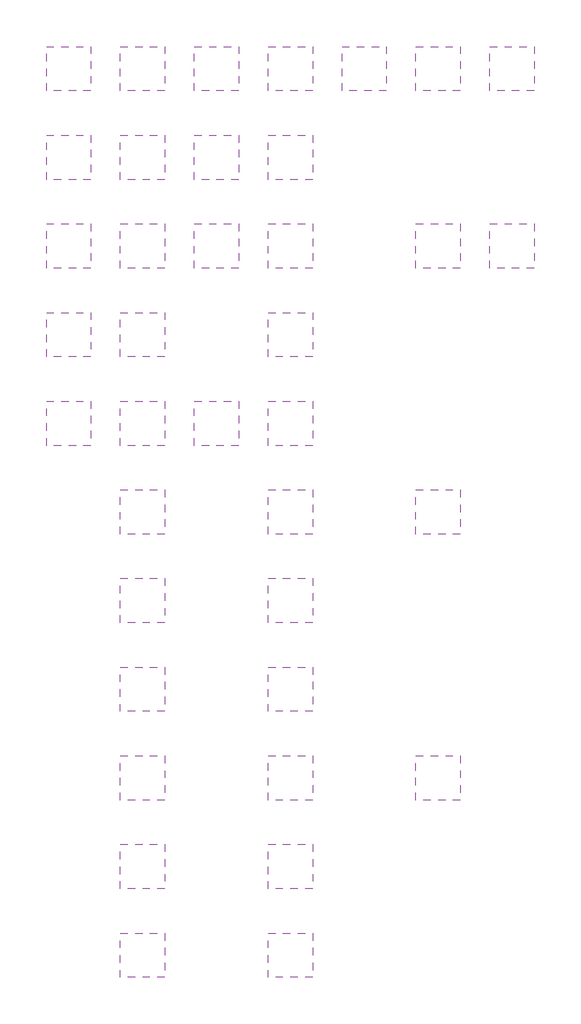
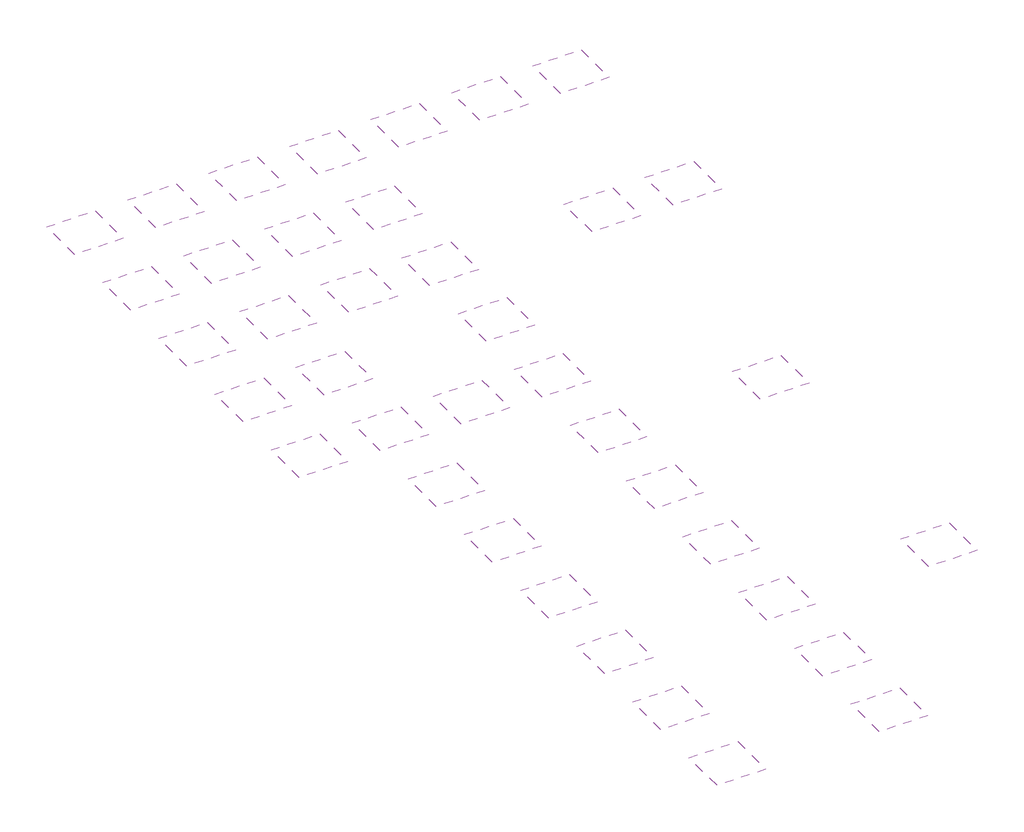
# One storey: 38 coverings.
"""IFC4 building model written with IfcOpenShell, lengths in millimetres."""

import ifcopenshell
import ifcopenshell.guid

model = None  # the IFC model being written
_history = None  # IfcOwnerHistory: only IFC2X3 demands one
_inside = {}  # id of a spatial element -> (the spatial element, [elements in it])
_under = {}  # id of a project, library or spatial element -> (it, [spatial elements below it])
_declared = {}  # id of a project -> (the project, [libraries it declares])
_typed = {}  # id of a type object -> (the type object, [elements of that type])
_made_of = {}  # id of a material, layer set ... -> (it, [elements and type objects made of it])


def new_model(schema):
    """Start an empty IFC model of exactly this schema.

    Asked for "IFC4X3", IfcOpenShell would pick the latest addendum, in which some entities
    have other attributes; the version numbers below select the first issue.
    IFC2X3 requires an IfcOwnerHistory on every rooted entity: one is made here for all.
    """
    global model, _history
    if schema == "IFC4X3":
        model = ifcopenshell.file(schema_version=(4, 3, 0, 0))
    else:
        model = ifcopenshell.file(schema=schema)
    _inside.clear()
    _under.clear()
    _declared.clear()
    _typed.clear()
    _made_of.clear()
    _history = None
    if model.schema == "IFC2X3":
        org = make("IfcOrganization", Name="unknown")
        user = make(
            "IfcPersonAndOrganization",
            ThePerson=make("IfcPerson", FamilyName="unknown"),
            TheOrganization=org,
        )
        app = make(
            "IfcApplication",
            ApplicationDeveloper=org,
            Version="unknown",
            ApplicationFullName="unknown",
            ApplicationIdentifier="unknown",
        )
        _history = make(
            "IfcOwnerHistory",
            OwningUser=user,
            OwningApplication=app,
            ChangeAction="ADDED",
            CreationDate=0,
        )
    return model


def make(cls, **values):
    """One entity of the class cls with the attributes given. An attribute that is None is left unset."""
    return model.create_entity(
        cls, **{name: value for name, value in values.items() if value is not None}
    )


def rooted(cls, **values):
    """An entity with a GlobalId (a new one), such as an element, a storey or a relation."""
    return make(cls, GlobalId=ifcopenshell.guid.new(), OwnerHistory=_history, **values)


def si_unit(unit_type, name, prefix=None):
    """IfcSIUnit, for example si_unit("LENGTHUNIT", "METRE", prefix="MILLI")."""
    return make("IfcSIUnit", UnitType=unit_type, Prefix=prefix, Name=name)


def assignment(units):
    """IfcUnitAssignment: the units of a project."""
    return None if units is None else make("IfcUnitAssignment", Units=units)


def point(xyz):
    """IfcCartesianPoint."""
    return None if xyz is None else make("IfcCartesianPoint", Coordinates=xyz)


def direction(xyz):
    """IfcDirection."""
    return None if xyz is None else make("IfcDirection", DirectionRatios=xyz)


def frame(location, z_axis=None, x_axis=None):
    """IfcAxis2Placement3D, a coordinate frame: its origin and axes. An axis left out is left unset."""
    return make(
        "IfcAxis2Placement3D",
        Location=point(location),
        Axis=direction(z_axis),
        RefDirection=direction(x_axis),
    )


def origin():
    """The frame at (0, 0, 0) with its axes left unset."""
    return frame((0.0, 0.0, 0.0))


def place(relative_to, where):
    """IfcLocalPlacement: puts the frame where relative to a parent placement (None: the world)."""
    return make(
        "IfcLocalPlacement", PlacementRelTo=relative_to, RelativePlacement=where
    )


def context(
    kind, dimensions, precision=None, world=None, true_north=None, identifier=None
):
    """IfcGeometricRepresentationContext, for example the 3D "Model" context."""
    return make(
        "IfcGeometricRepresentationContext",
        ContextIdentifier=identifier,
        ContextType=kind,
        CoordinateSpaceDimension=dimensions,
        Precision=precision,
        WorldCoordinateSystem=world,
        TrueNorth=true_north,
    )


def project(units=None, contexts=None):
    """IfcProject with its units and contexts."""
    return rooted(
        "IfcProject",
        Name="project",
        RepresentationContexts=contexts,
        UnitsInContext=assignment(units),
    )


def spatial(cls, under=None, at=None, **own):
    """A site, building, storey or space (cls), placed at a placement, below another one or the project."""
    s = rooted(cls, ObjectPlacement=at, **own)
    if under is not None:
        _under.setdefault(under.id(), (under, []))[1].append(s)
    return s


def polyline(points):
    """IfcPolyline through the points."""
    return make("IfcPolyline", Points=[point(p) for p in points])


def outline(outer, holes=None, kind="AREA"):
    """IfcArbitraryClosedProfileDef: a profile drawn as a closed curve; with holes, ...WithVoids."""
    if holes is None:
        return make("IfcArbitraryClosedProfileDef", ProfileType=kind, OuterCurve=outer)
    return make(
        "IfcArbitraryProfileDefWithVoids",
        ProfileType=kind,
        OuterCurve=outer,
        InnerCurves=holes,
    )


def extrude(swept, where, along, depth):
    """IfcExtrudedAreaSolid: the profile swept, set in the frame where, extruded along a direction by depth."""
    return make(
        "IfcExtrudedAreaSolid",
        SweptArea=swept,
        Position=where,
        ExtrudedDirection=direction(along),
        Depth=depth,
    )


def shape(context_of_items, identifier, shape_type, items):
    """IfcShapeRepresentation: the items that make up one representation, for example the "Body"."""
    return make(
        "IfcShapeRepresentation",
        ContextOfItems=context_of_items,
        RepresentationIdentifier=identifier,
        RepresentationType=shape_type,
        Items=items,
    )


def made_of(thing, what):
    """Note that an element or type object is made of a material, layer set ...; save() writes the relation."""
    if what is not None:
        _made_of.setdefault(what.id(), (what, []))[1].append(thing)
    return thing


def element(
    cls,
    number,
    at=None,
    inside=None,
    cuts=None,
    type_object=None,
    material=None,
    context=None,
    identifier="Body",
    shape_type=None,
    held_by="IfcProductDefinitionShape",
    body=None,
    shapes=None,
    **own,
):
    """One element of the class cls, such as IfcWall. Its Tag is "e" and its number.

    at: its placement. inside: the storey or other place that contains it. cuts: it is an
    opening in that element (IfcRelVoidsElement). A single representation is given by context,
    identifier, shape_type and body (its items); several are given by shapes. held_by: the class
    of the entity that holds the representations. save() writes the other relations.
    """
    e = rooted(cls, Tag="e%d" % number, ObjectPlacement=at, **own)
    if body is not None:
        shapes = [shape(context, identifier, shape_type, body)]
    if shapes is not None:
        e.Representation = make(held_by, Representations=shapes)
    if inside is not None:
        _inside.setdefault(inside.id(), (inside, []))[1].append(e)
    if cuts is not None:
        rooted(
            "IfcRelVoidsElement", RelatingBuildingElement=cuts, RelatedOpeningElement=e
        )
    if type_object is not None:
        _typed.setdefault(type_object.id(), (type_object, []))[1].append(e)
    return made_of(e, material)


def aggregate(whole, parts):
    """IfcRelAggregates: a whole, such as a stair, and the parts it consists of."""
    return rooted("IfcRelAggregates", RelatingObject=whole, RelatedObjects=parts)


def save(model, path):
    """Write the relations noted so far, then the file.

    IfcRelAggregates (storeys below a building ...), IfcRelContainedInSpatialStructure (elements
    in a storey), IfcRelDefinesByType, IfcRelAssociatesMaterial and IfcRelDeclares: one each for
    every whole, place, type object, material and project.
    """
    for whole, parts in _under.values():
        aggregate(whole, parts)
    for where, things in _inside.values():
        rooted(
            "IfcRelContainedInSpatialStructure",
            RelatedElements=things,
            RelatingStructure=where,
        )
    for kind, things in _typed.values():
        rooted("IfcRelDefinesByType", RelatedObjects=things, RelatingType=kind)
    for what, things in _made_of.values():
        rooted("IfcRelAssociatesMaterial", RelatedObjects=things, RelatingMaterial=what)
    for by, libraries in _declared.values():
        rooted("IfcRelDeclares", RelatingContext=by, RelatedDefinitions=libraries)
    model.write(path)


model = new_model("IFC4")

# Units and contexts
model_context = context("Model", 3, world=origin())
ifc_project = project(units=[si_unit("LENGTHUNIT", "METRE", prefix="MILLI")], contexts=[model_context])

# Site, building, storey
site = spatial("IfcSite", under=ifc_project)
building = spatial("IfcBuilding", under=site)
storey = spatial("IfcBuildingStorey", under=building, Name="Rockfon MediCare Standard", Elevation=0.0)

# Coverings
placement = place(None, origin())
element("IfcCovering", 1, ObjectType="Rockfon MediCare Standard 600x600x12_Rockfon System T15 A_A15", at=placement, inside=storey, context=model_context, shape_type="SweptSolid", body=[
    extrude(outline(polyline([(-4783.0103193, 14117.0281757), (-4783.0103193, 11117.0281757), (-7783.0103193, 11117.0281757), (-7783.0103193, 14117.0281757), (-4783.0103193, 14117.0281757)])), frame((0.0, 0.0, 2600.0), z_axis=(0.0, 0.0, 1.0), x_axis=(1.0, 0.0, 0.0)), (0.0, 0.0, 1.0), 200.0),
])
element("IfcCovering", 2, ObjectType="Rockfon MediCare Standard 600x600x12_Rockfon System T24 A_A24", at=placement, inside=storey, context=model_context, shape_type="SweptSolid", body=[
    extrude(outline(polyline([(-4783.0103193, 2117.0279837), (-4783.0103193, -882.9720163), (-7783.0103193, -882.9720163), (-7783.0103193, 2117.0279837), (-4783.0103193, 2117.0279837)])), frame((0.0, 0.0, 2600.0), z_axis=(0.0, 0.0, 1.0), x_axis=(1.0, 0.0, 0.0)), (0.0, 0.0, 1.0), 200.0),
])
element("IfcCovering", 3, ObjectType="Rockfon MediCare Standard 600x600x12_Rockfon System XL T24 A_A24", at=placement, inside=storey, context=model_context, shape_type="SweptSolid", body=[
    extrude(outline(polyline([(-4783.0103193, -3882.9722083), (-4783.0103193, -6882.9722083), (-7783.0103193, -6882.9722083), (-7783.0103193, -3882.9722083), (-4783.0103193, -3882.9722083)])), frame((0.0, 0.0, 2600.0), z_axis=(0.0, 0.0, 1.0), x_axis=(1.0, 0.0, 0.0)), (0.0, 0.0, 1.0), 200.0),
])
element("IfcCovering", 4, ObjectType="Rockfon MediCare Standard 600x600x15_Rockfon System T24 E_E24S8", at=placement, inside=storey, context=model_context, shape_type="SweptSolid", body=[
    extrude(outline(polyline([(216.9898407, -15882.9727843), (216.9898407, -18882.9727843), (-2783.0101593, -18882.9727843), (-2783.0101593, -15882.9727843), (216.9898407, -15882.9727843)])), frame((0.0, 0.0, 2600.0), z_axis=(0.0, 0.0, 1.0), x_axis=(1.0, 0.0, 0.0)), (0.0, 0.0, 1.0), 200.0),
])
element("IfcCovering", 5, ObjectType="Rockfon MediCare Standard 600x600x15_Rockfon System XL T24 E_E24S8", at=placement, inside=storey, context=model_context, shape_type="SweptSolid", body=[
    extrude(outline(polyline([(216.9898407, -27882.9729763), (216.9898407, -30882.9729763), (-2783.0101593, -30882.9729763), (-2783.0101593, -27882.9729763), (216.9898407, -27882.9729763)])), frame((0.0, 0.0, 2600.0), z_axis=(0.0, 0.0, 1.0), x_axis=(1.0, 0.0, 0.0)), (0.0, 0.0, 1.0), 200.0),
])
element("IfcCovering", 6, ObjectType="Rockfon MediCare Standard 600x600x15_Rockfon System  T15 E_E15S8", at=placement, inside=storey, context=model_context, shape_type="SweptSolid", body=[
    extrude(outline(polyline([(216.9898407, -33882.9733603), (216.9898407, -36882.9733603), (-2783.0101593, -36882.9733603), (-2783.0101593, -33882.9733603), (216.9898407, -33882.9733603)])), frame((0.0, 0.0, 2600.0), z_axis=(0.0, 0.0, 1.0), x_axis=(1.0, 0.0, 0.0)), (0.0, 0.0, 1.0), 200.0),
])
element("IfcCovering", 7, ObjectType="Rockfon MediCare Standard 600x600x15_Rockfon System T15 A_A15", at=placement, inside=storey, context=model_context, shape_type="SweptSolid", body=[
    extrude(outline(polyline([(216.9898407, 14117.0281757), (216.9898407, 11117.0281757), (-2783.0101593, 11117.0281757), (-2783.0101593, 14117.0281757), (216.9898407, 14117.0281757)])), frame((0.0, 0.0, 2600.0), z_axis=(0.0, 0.0, 1.0), x_axis=(1.0, 0.0, 0.0)), (0.0, 0.0, 1.0), 200.0),
])
element("IfcCovering", 8, ObjectType="Rockfon MediCare Standard 1200x600x12_Rockfon System T24 A_A24", at=placement, inside=storey, context=model_context, shape_type="SweptSolid", body=[
    extrude(outline(polyline([(5216.9900007, 2117.0279837), (5216.9900007, -882.9720163), (2216.9900007, -882.9720163), (2216.9900007, 2117.0279837), (5216.9900007, 2117.0279837)])), frame((0.0, 0.0, 2600.0), z_axis=(0.0, 0.0, 1.0), x_axis=(1.0, 0.0, 0.0)), (0.0, 0.0, 1.0), 200.0),
])
element("IfcCovering", 9, ObjectType="Rockfon MediCare Standard 1200x600x15_Rockfon System T24 E_E24S8", at=placement, inside=storey, context=model_context, shape_type="SweptSolid", body=[
    extrude(outline(polyline([(10216.9901607, -15882.9727843), (10216.9901607, -18882.9727843), (7216.9901607, -18882.9727843), (7216.9901607, -15882.9727843), (10216.9901607, -15882.9727843)])), frame((0.0, 0.0, 2600.0), z_axis=(0.0, 0.0, 1.0), x_axis=(1.0, 0.0, 0.0)), (0.0, 0.0, 1.0), 200.0),
])
element("IfcCovering", 10, ObjectType="Rockfon MediCare Standard 1200x600x15_Rockfon System XL T24 E_E24S8", at=placement, inside=storey, context=model_context, shape_type="SweptSolid", body=[
    extrude(outline(polyline([(10216.9901607, -27882.9729763), (10216.9901607, -30882.9729763), (7216.9901607, -30882.9729763), (7216.9901607, -27882.9729763), (10216.9901607, -27882.9729763)])), frame((0.0, 0.0, 2600.0), z_axis=(0.0, 0.0, 1.0), x_axis=(1.0, 0.0, 0.0)), (0.0, 0.0, 1.0), 200.0),
])
element("IfcCovering", 11, ObjectType="Rockfon MediCare Standard 1200x600x15_Rockfon System T15 E_E15S8", at=placement, inside=storey, context=model_context, shape_type="SweptSolid", body=[
    extrude(outline(polyline([(10216.9901607, -33882.9733603), (10216.9901607, -36882.9733603), (7216.9901607, -36882.9733603), (7216.9901607, -33882.9733603), (10216.9901607, -33882.9733603)])), frame((0.0, 0.0, 2600.0), z_axis=(0.0, 0.0, 1.0), x_axis=(1.0, 0.0, 0.0)), (0.0, 0.0, 1.0), 200.0),
])
element("IfcCovering", 12, ObjectType="Rockfon MediCare Standard 1200x600x12_Rockfon System T15 A_A15", at=placement, inside=storey, context=model_context, shape_type="SweptSolid", body=[
    extrude(outline(polyline([(5216.9900007, 14117.0281757), (5216.9900007, 11117.0281757), (2216.9900007, 11117.0281757), (2216.9900007, 14117.0281757), (5216.9900007, 14117.0281757)])), frame((0.0, 0.0, 2600.0), z_axis=(0.0, 0.0, 1.0), x_axis=(1.0, 0.0, 0.0)), (0.0, 0.0, 1.0), 200.0),
])
element("IfcCovering", 13, ObjectType="Rockfon MediCare Standard 1200x600x15_Rockfon System T15 A_A15", at=placement, inside=storey, context=model_context, shape_type="SweptSolid", body=[
    extrude(outline(polyline([(10216.9901607, 14117.0281757), (10216.9901607, 11117.0281757), (7216.9901607, 11117.0281757), (7216.9901607, 14117.0281757), (10216.9901607, 14117.0281757)])), frame((0.0, 0.0, 2600.0), z_axis=(0.0, 0.0, 1.0), x_axis=(1.0, 0.0, 0.0)), (0.0, 0.0, 1.0), 200.0),
])
element("IfcCovering", 14, ObjectType="Rockfon MediCare Standard 1200x1200x15_Rockfon System T15 A_A15", at=placement, inside=storey, context=model_context, shape_type="SweptSolid", body=[
    extrude(outline(polyline([(15216.9903207, 14117.0281757), (15216.9903207, 11117.0281757), (12216.9903207, 11117.0281757), (12216.9903207, 14117.0281757), (15216.9903207, 14117.0281757)])), frame((0.0, 0.0, 2600.0), z_axis=(0.0, 0.0, 1.0), x_axis=(1.0, 0.0, 0.0)), (0.0, 0.0, 1.0), 200.0),
])
element("IfcCovering", 15, ObjectType="Rockfon MediCare Standard 625x625x15_Rockfon System T15 A_A15", at=placement, inside=storey, context=model_context, shape_type="SweptSolid", body=[
    extrude(outline(polyline([(20216.9904807, 14117.0281757), (20216.9904807, 11117.0281757), (17216.9904807, 11117.0281757), (17216.9904807, 14117.0281757), (20216.9904807, 14117.0281757)])), frame((0.0, 0.0, 2600.0), z_axis=(0.0, 0.0, 1.0), x_axis=(1.0, 0.0, 0.0)), (0.0, 0.0, 1.0), 200.0),
])
element("IfcCovering", 16, ObjectType="Rockfon MediCare Standard 1250x625x15_Rockfon System T15 A_A15", at=placement, inside=storey, context=model_context, shape_type="SweptSolid", body=[
    extrude(outline(polyline([(25216.9906407, 14117.0281757), (25216.9906407, 11117.0281757), (22216.9906407, 11117.0281757), (22216.9906407, 14117.0281757), (25216.9906407, 14117.0281757)])), frame((0.0, 0.0, 2600.0), z_axis=(0.0, 0.0, 1.0), x_axis=(1.0, 0.0, 0.0)), (0.0, 0.0, 1.0), 200.0),
])
element("IfcCovering", 17, ObjectType="Rockfon MediCare Standard 600x600x12_Rockfon System T15 A/E ECR_A15", at=placement, inside=storey, context=model_context, shape_type="SweptSolid", body=[
    extrude(outline(polyline([(-4783.0103193, 8117.0281757), (-4783.0103193, 5117.0281757), (-7783.0103193, 5117.0281757), (-7783.0103193, 8117.0281757), (-4783.0103193, 8117.0281757)])), frame((0.0, 0.0, 2600.0), z_axis=(0.0, 0.0, 1.0), x_axis=(1.0, 0.0, 0.0)), (0.0, 0.0, 1.0), 200.0),
])
element("IfcCovering", 18, ObjectType="Rockfon MediCare Standard 600x600x15_Rockfon System T15 A/E ECR_A15", at=placement, inside=storey, context=model_context, shape_type="SweptSolid", body=[
    extrude(outline(polyline([(216.9898407, 8117.0281757), (216.9898407, 5117.0281757), (-2783.0101593, 5117.0281757), (-2783.0101593, 8117.0281757), (216.9898407, 8117.0281757)])), frame((0.0, 0.0, 2600.0), z_axis=(0.0, 0.0, 1.0), x_axis=(1.0, 0.0, 0.0)), (0.0, 0.0, 1.0), 200.0),
])
element("IfcCovering", 19, ObjectType="Rockfon MediCare Standard 1200x600x12_Rockfon System T15 A/E ECR_A15", at=placement, inside=storey, context=model_context, shape_type="SweptSolid", body=[
    extrude(outline(polyline([(5216.9900007, 8117.0281757), (5216.9900007, 5117.0281757), (2216.9900007, 5117.0281757), (2216.9900007, 8117.0281757), (5216.9900007, 8117.0281757)])), frame((0.0, 0.0, 2600.0), z_axis=(0.0, 0.0, 1.0), x_axis=(1.0, 0.0, 0.0)), (0.0, 0.0, 1.0), 200.0),
])
element("IfcCovering", 20, ObjectType="Rockfon MediCare Standard 1200x600x15_Rockfon System T15 A/E ECR_A15", at=placement, inside=storey, context=model_context, shape_type="SweptSolid", body=[
    extrude(outline(polyline([(10216.9901607, 8117.0281757), (10216.9901607, 5117.0281757), (7216.9901607, 5117.0281757), (7216.9901607, 8117.0281757), (10216.9901607, 8117.0281757)])), frame((0.0, 0.0, 2600.0), z_axis=(0.0, 0.0, 1.0), x_axis=(1.0, 0.0, 0.0)), (0.0, 0.0, 1.0), 200.0),
])
element("IfcCovering", 21, ObjectType="Rockfon MediCare Standard 600x600x15_Rockfon System T24 A_A24", at=placement, inside=storey, context=model_context, shape_type="SweptSolid", body=[
    extrude(outline(polyline([(216.9898407, 2117.0279837), (216.9898407, -882.9720163), (-2783.0101593, -882.9720163), (-2783.0101593, 2117.0279837), (216.9898407, 2117.0279837)])), frame((0.0, 0.0, 2600.0), z_axis=(0.0, 0.0, 1.0), x_axis=(1.0, 0.0, 0.0)), (0.0, 0.0, 1.0), 200.0),
])
element("IfcCovering", 22, ObjectType="Rockfon MediCare Standard 1200x600x15_Rockfon System T24 A_A24", at=placement, inside=storey, context=model_context, shape_type="SweptSolid", body=[
    extrude(outline(polyline([(10216.9901607, 2117.0279837), (10216.9901607, -882.9720163), (7216.9901607, -882.9720163), (7216.9901607, 2117.0279837), (10216.9901607, 2117.0279837)])), frame((0.0, 0.0, 2600.0), z_axis=(0.0, 0.0, 1.0), x_axis=(1.0, 0.0, 0.0)), (0.0, 0.0, 1.0), 200.0),
])
element("IfcCovering", 23, ObjectType="Rockfon MediCare Standard 625x625x15_Rockfon System T24 A_A24", at=placement, inside=storey, context=model_context, shape_type="SweptSolid", body=[
    extrude(outline(polyline([(20216.9904807, 2117.0279837), (20216.9904807, -882.9720163), (17216.9904807, -882.9720163), (17216.9904807, 2117.0279837), (20216.9904807, 2117.0279837)])), frame((0.0, 0.0, 2600.0), z_axis=(0.0, 0.0, 1.0), x_axis=(1.0, 0.0, 0.0)), (0.0, 0.0, 1.0), 200.0),
])
element("IfcCovering", 24, ObjectType="Rockfon MediCare Standard 1250x625x15_Rockfon System T24 A_A24", at=placement, inside=storey, context=model_context, shape_type="SweptSolid", body=[
    extrude(outline(polyline([(25216.9906407, 2117.0279837), (25216.9906407, -882.9720163), (22216.9906407, -882.9720163), (22216.9906407, 2117.0279837), (25216.9906407, 2117.0279837)])), frame((0.0, 0.0, 2600.0), z_axis=(0.0, 0.0, 1.0), x_axis=(1.0, 0.0, 0.0)), (0.0, 0.0, 1.0), 200.0),
])
element("IfcCovering", 25, ObjectType="Rockfon MediCare Standard 1200x600x15_Rockfon System XL T24 A_A24", at=placement, inside=storey, context=model_context, shape_type="SweptSolid", body=[
    extrude(outline(polyline([(10216.9901607, -3882.9722083), (10216.9901607, -6882.9722083), (7216.9901607, -6882.9722083), (7216.9901607, -3882.9722083), (10216.9901607, -3882.9722083)])), frame((0.0, 0.0, 2600.0), z_axis=(0.0, 0.0, 1.0), x_axis=(1.0, 0.0, 0.0)), (0.0, 0.0, 1.0), 200.0),
])
element("IfcCovering", 26, ObjectType="Rockfon MediCare Standard 600x600x15_Rockfon System XL T24 A_A24", at=placement, inside=storey, context=model_context, shape_type="SweptSolid", body=[
    extrude(outline(polyline([(216.9898407, -3882.9722083), (216.9898407, -6882.9722083), (-2783.0101593, -6882.9722083), (-2783.0101593, -3882.9722083), (216.9898407, -3882.9722083)])), frame((0.0, 0.0, 2600.0), z_axis=(0.0, 0.0, 1.0), x_axis=(1.0, 0.0, 0.0)), (0.0, 0.0, 1.0), 200.0),
])
element("IfcCovering", 27, ObjectType="Rockfon MediCare Standard 600x600x12_Rockfon System T24 A/E ECR_A24", at=placement, inside=storey, context=model_context, shape_type="SweptSolid", body=[
    extrude(outline(polyline([(-4783.0103193, -9882.9724003), (-4783.0103193, -12882.9724003), (-7783.0103193, -12882.9724003), (-7783.0103193, -9882.9724003), (-4783.0103193, -9882.9724003)])), frame((0.0, 0.0, 2600.0), z_axis=(0.0, 0.0, 1.0), x_axis=(1.0, 0.0, 0.0)), (0.0, 0.0, 1.0), 200.0),
])
element("IfcCovering", 28, ObjectType="Rockfon MediCare Standard 600x600x15_Rockfon System T24 A/E ECR_A24", at=placement, inside=storey, context=model_context, shape_type="SweptSolid", body=[
    extrude(outline(polyline([(216.9898407, -9882.9724003), (216.9898407, -12882.9724003), (-2783.0101593, -12882.9724003), (-2783.0101593, -9882.9724003), (216.9898407, -9882.9724003)])), frame((0.0, 0.0, 2600.0), z_axis=(0.0, 0.0, 1.0), x_axis=(1.0, 0.0, 0.0)), (0.0, 0.0, 1.0), 200.0),
])
element("IfcCovering", 29, ObjectType="Rockfon MediCare Standard 1200x600x12_Rockfon System T24 A/E ECR_A24", at=placement, inside=storey, context=model_context, shape_type="SweptSolid", body=[
    extrude(outline(polyline([(5216.9900007, -9882.9724003), (5216.9900007, -12882.9724003), (2216.9900007, -12882.9724003), (2216.9900007, -9882.9724003), (5216.9900007, -9882.9724003)])), frame((0.0, 0.0, 2600.0), z_axis=(0.0, 0.0, 1.0), x_axis=(1.0, 0.0, 0.0)), (0.0, 0.0, 1.0), 200.0),
])
element("IfcCovering", 30, ObjectType="Rockfon MediCare Standard 1200x600x15_Rockfon System T24 A/E ECR_A24", at=placement, inside=storey, context=model_context, shape_type="SweptSolid", body=[
    extrude(outline(polyline([(10216.9901607, -9882.9724003), (10216.9901607, -12882.9724003), (7216.9901607, -12882.9724003), (7216.9901607, -9882.9724003), (10216.9901607, -9882.9724003)])), frame((0.0, 0.0, 2600.0), z_axis=(0.0, 0.0, 1.0), x_axis=(1.0, 0.0, 0.0)), (0.0, 0.0, 1.0), 200.0),
])
element("IfcCovering", 31, ObjectType="Rockfon MediCare Standard 625x625x15_Rockfon System T24 E_E24S8", at=placement, inside=storey, context=model_context, shape_type="SweptSolid", body=[
    extrude(outline(polyline([(20216.9904807, -15882.9727843), (20216.9904807, -18882.9727843), (17216.9904807, -18882.9727843), (17216.9904807, -15882.9727843), (20216.9904807, -15882.9727843)])), frame((0.0, 0.0, 2600.0), z_axis=(0.0, 0.0, 1.0), x_axis=(1.0, 0.0, 0.0)), (0.0, 0.0, 1.0), 200.0),
])
element("IfcCovering", 32, ObjectType="Rockfon MediCare Standard 625x625x15_Rockfon Systeme T15 E_E15S8", at=placement, inside=storey, context=model_context, shape_type="SweptSolid", body=[
    extrude(outline(polyline([(20216.9904807, -33882.9733603), (20216.9904807, -36882.9733603), (17216.9904807, -36882.9733603), (17216.9904807, -33882.9733603), (20216.9904807, -33882.9733603)])), frame((0.0, 0.0, 2600.0), z_axis=(0.0, 0.0, 1.0), x_axis=(1.0, 0.0, 0.0)), (0.0, 0.0, 1.0), 200.0),
])
element("IfcCovering", 33, ObjectType="Rockfon MediCare Standard 600x600x15_Rockfon System T15 A/E ECR_E15S8", at=placement, inside=storey, context=model_context, shape_type="SweptSolid", body=[
    extrude(outline(polyline([(216.9898407, -39882.9733603), (216.9898407, -42882.9733603), (-2783.0101593, -42882.9733603), (-2783.0101593, -39882.9733603), (216.9898407, -39882.9733603)])), frame((0.0, 0.0, 2600.0), z_axis=(0.0, 0.0, 1.0), x_axis=(1.0, 0.0, 0.0)), (0.0, 0.0, 1.0), 200.0),
])
element("IfcCovering", 34, ObjectType="Rockfon MediCare Standard 1200x600x15_Rockfon System T15 A/E ECR_E15S8", at=placement, inside=storey, context=model_context, shape_type="SweptSolid", body=[
    extrude(outline(polyline([(10216.9901607, -39882.9733603), (10216.9901607, -42882.9733603), (7216.9901607, -42882.9733603), (7216.9901607, -39882.9733603), (10216.9901607, -39882.9733603)])), frame((0.0, 0.0, 2600.0), z_axis=(0.0, 0.0, 1.0), x_axis=(1.0, 0.0, 0.0)), (0.0, 0.0, 1.0), 200.0),
])
element("IfcCovering", 35, ObjectType="Rockfon MediCare Standard 600x600x15_Rockfon System Ultraline E_E15S8", at=placement, inside=storey, context=model_context, shape_type="SweptSolid", body=[
    extrude(outline(polyline([(216.9898407, -45882.9733603), (216.9898407, -48882.9733603), (-2783.0101593, -48882.9733603), (-2783.0101593, -45882.9733603), (216.9898407, -45882.9733603)])), frame((0.0, 0.0, 2600.0), z_axis=(0.0, 0.0, 1.0), x_axis=(1.0, 0.0, 0.0)), (0.0, 0.0, 1.0), 200.0),
])
element("IfcCovering", 36, ObjectType="Rockfon MediCare Standard 1200x600x15_Rockfon System Ultraline E_E15S8", at=placement, inside=storey, context=model_context, shape_type="SweptSolid", body=[
    extrude(outline(polyline([(10216.9901607, -45882.9733603), (10216.9901607, -48882.9733603), (7216.9901607, -48882.9733603), (7216.9901607, -45882.9733603), (10216.9901607, -45882.9733603)])), frame((0.0, 0.0, 2600.0), z_axis=(0.0, 0.0, 1.0), x_axis=(1.0, 0.0, 0.0)), (0.0, 0.0, 1.0), 200.0),
])
element("IfcCovering", 37, ObjectType="Rockfon MediCare Standard 600x600x15_Rockfon System T24 A/E ECR_E24S8", at=placement, inside=storey, context=model_context, shape_type="SweptSolid", body=[
    extrude(outline(polyline([(216.9898407, -21882.9731683), (216.9898407, -24882.9731683), (-2783.0101593, -24882.9731683), (-2783.0101593, -21882.9731683), (216.9898407, -21882.9731683)])), frame((0.0, 0.0, 2600.0), z_axis=(0.0, 0.0, 1.0), x_axis=(1.0, 0.0, 0.0)), (0.0, 0.0, 1.0), 200.0),
])
element("IfcCovering", 38, ObjectType="Rockfon MediCare Standard 1200x600x15_Rockfon System  T24 A/E ECR_E24S8", at=placement, inside=storey, context=model_context, shape_type="SweptSolid", body=[
    extrude(outline(polyline([(10216.9901607, -21882.9731683), (10216.9901607, -24882.9731683), (7216.9901607, -24882.9731683), (7216.9901607, -21882.9731683), (10216.9901607, -21882.9731683)])), frame((0.0, 0.0, 2600.0), z_axis=(0.0, 0.0, 1.0), x_axis=(1.0, 0.0, 0.0)), (0.0, 0.0, 1.0), 200.0),
])

save(model, "model.ifc")
